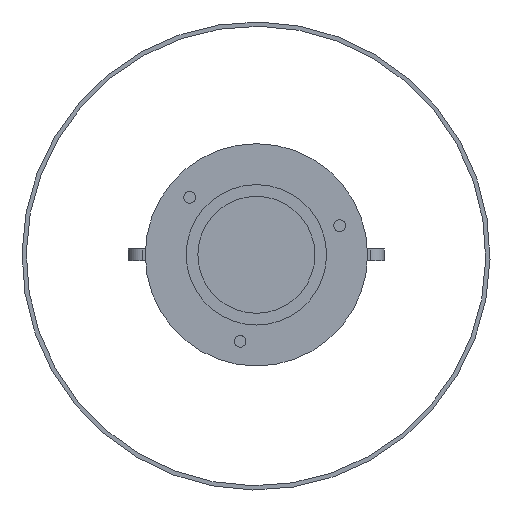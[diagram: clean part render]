
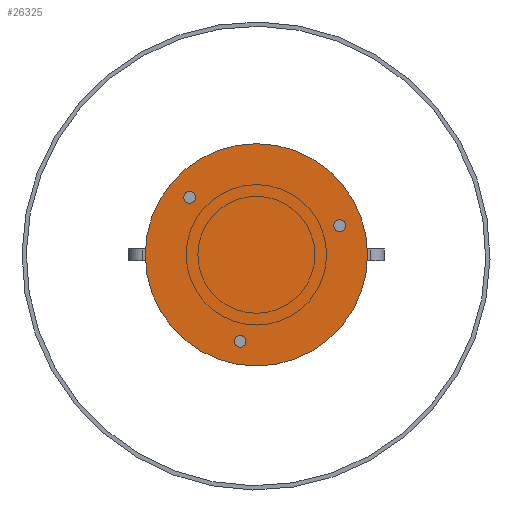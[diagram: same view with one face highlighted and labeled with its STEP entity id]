
A CAD part, front view. The second image highlights one B-rep face of the part: STEP entity #26325.
In plain terms, the highlighted planar face has unit normal (0, -1, 0).
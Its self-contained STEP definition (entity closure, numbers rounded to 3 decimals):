
#29 = EDGE_CURVE ( 'NONE', #8350, #9614, #4669, .T. ) ;
#1437 = FACE_BOUND ( 'NONE', #11546, .T. ) ;
#1641 = CARTESIAN_POINT ( 'NONE',  ( 71.05, -2., 19.917 ) ) ;
#1895 = AXIS2_PLACEMENT_3D ( 'NONE', #8122, #31578, #16978 ) ;
#2232 = EDGE_LOOP ( 'NONE', ( #6592, #17200 ) ) ;
#2808 = EDGE_LOOP ( 'NONE', ( #35069, #18681 ) ) ;
#3937 = DIRECTION ( 'NONE',  ( 0., -1., 0. ) ) ;
#4669 = CIRCLE ( 'NONE', #26183, 95. ) ;
#5173 = VERTEX_POINT ( 'NONE', #10348 ) ;
#5291 = DIRECTION ( 'NONE',  ( 0., -1., 0. ) ) ;
#5431 = AXIS2_PLACEMENT_3D ( 'NONE', #11265, #37794, #17388 ) ;
#6255 = EDGE_CURVE ( 'NONE', #23090, #5173, #18486, .T. ) ;
#6457 = DIRECTION ( 'NONE',  ( 0., -1., 0. ) ) ;
#6592 = ORIENTED_EDGE ( 'NONE', *, *, #29, .T. ) ;
#6825 = CARTESIAN_POINT ( 'NONE',  ( -57.104, -2., 49.072 ) ) ;
#6863 = EDGE_CURVE ( 'NONE', #11114, #34862, #16086, .T. ) ;
#7804 = DIRECTION ( 'NONE',  ( 0., 0., -1. ) ) ;
#8122 = CARTESIAN_POINT ( 'NONE',  ( -13.946, -2., -73.989 ) ) ;
#8350 = VERTEX_POINT ( 'NONE', #11701 ) ;
#8614 = DIRECTION ( 'NONE',  ( -0.866, 0., 0.5 ) ) ;
#9614 = VERTEX_POINT ( 'NONE', #36959 ) ;
#9635 = AXIS2_PLACEMENT_3D ( 'NONE', #26073, #37053, #10512 ) ;
#10348 = CARTESIAN_POINT ( 'NONE',  ( -13.946, -2., -68.989 ) ) ;
#10512 = DIRECTION ( 'NONE',  ( 0., 0., -1. ) ) ;
#11046 = EDGE_LOOP ( 'NONE', ( #27418, #24476 ) ) ;
#11114 = VERTEX_POINT ( 'NONE', #27675 ) ;
#11265 = CARTESIAN_POINT ( 'NONE',  ( -13.946, -2., -73.989 ) ) ;
#11546 = EDGE_LOOP ( 'NONE', ( #32200, #37576 ) ) ;
#11701 = CARTESIAN_POINT ( 'NONE',  ( 0., -2., 95. ) ) ;
#12248 = CARTESIAN_POINT ( 'NONE',  ( -57.104, -2., 54.072 ) ) ;
#13107 = CARTESIAN_POINT ( 'NONE',  ( 0., -2., 0. ) ) ;
#13188 = FACE_BOUND ( 'NONE', #11046, .T. ) ;
#16086 = CIRCLE ( 'NONE', #32057, 5. ) ;
#16108 = CIRCLE ( 'NONE', #25923, 5. ) ;
#16978 = DIRECTION ( 'NONE',  ( 0., 0., -1. ) ) ;
#17119 = AXIS2_PLACEMENT_3D ( 'NONE', #32806, #6457, #33172 ) ;
#17200 = ORIENTED_EDGE ( 'NONE', *, *, #21716, .T. ) ;
#17388 = DIRECTION ( 'NONE',  ( 0., 0., -1. ) ) ;
#18200 = CIRCLE ( 'NONE', #27989, 5. ) ;
#18407 = EDGE_CURVE ( 'NONE', #21610, #25313, #36207, .T. ) ;
#18486 = CIRCLE ( 'NONE', #1895, 5. ) ;
#18650 = EDGE_CURVE ( 'NONE', #5173, #23090, #25080, .T. ) ;
#18681 = ORIENTED_EDGE ( 'NONE', *, *, #6255, .F. ) ;
#19135 = FACE_OUTER_BOUND ( 'NONE', #2232, .T. ) ;
#20705 = DIRECTION ( 'NONE',  ( 0., -1., 0. ) ) ;
#21328 = AXIS2_PLACEMENT_3D ( 'NONE', #24907, #31053, #7804 ) ;
#21429 = CARTESIAN_POINT ( 'NONE',  ( -13.946, -2., -78.989 ) ) ;
#21610 = VERTEX_POINT ( 'NONE', #1641 ) ;
#21716 = EDGE_CURVE ( 'NONE', #9614, #8350, #26216, .T. ) ;
#21753 = DIRECTION ( 'NONE',  ( 0., 0., -1. ) ) ;
#23090 = VERTEX_POINT ( 'NONE', #21429 ) ;
#23937 = DIRECTION ( 'NONE',  ( -0.866, 0., 0.5 ) ) ;
#24476 = ORIENTED_EDGE ( 'NONE', *, *, #6863, .F. ) ;
#24907 = CARTESIAN_POINT ( 'NONE',  ( 0., -2., 0. ) ) ;
#25013 = EDGE_CURVE ( 'NONE', #25313, #21610, #18200, .T. ) ;
#25080 = CIRCLE ( 'NONE', #5431, 5. ) ;
#25313 = VERTEX_POINT ( 'NONE', #31541 ) ;
#25923 = AXIS2_PLACEMENT_3D ( 'NONE', #34964, #20705, #8614 ) ;
#26073 = CARTESIAN_POINT ( 'NONE',  ( 0., -2., 0. ) ) ;
#26183 = AXIS2_PLACEMENT_3D ( 'NONE', #13107, #33859, #21753 ) ;
#26216 = CIRCLE ( 'NONE', #9635, 95. ) ;
#26325 = ADVANCED_FACE ( 'NONE', ( #27789, #1437, #13188, #19135 ), #34141, .T. ) ;
#26556 = DIRECTION ( 'NONE',  ( 0.866, 0., 0.5 ) ) ;
#27405 = CARTESIAN_POINT ( 'NONE',  ( 71.05, -2., 24.917 ) ) ;
#27418 = ORIENTED_EDGE ( 'NONE', *, *, #30288, .F. ) ;
#27675 = CARTESIAN_POINT ( 'NONE',  ( -57.104, -2., 44.072 ) ) ;
#27789 = FACE_BOUND ( 'NONE', #2808, .T. ) ;
#27989 = AXIS2_PLACEMENT_3D ( 'NONE', #27405, #5291, #26556 ) ;
#30288 = EDGE_CURVE ( 'NONE', #34862, #11114, #16108, .T. ) ;
#31053 = DIRECTION ( 'NONE',  ( 0., -1., 0. ) ) ;
#31541 = CARTESIAN_POINT ( 'NONE',  ( 71.05, -2., 29.917 ) ) ;
#31578 = DIRECTION ( 'NONE',  ( 0., -1., 0. ) ) ;
#32057 = AXIS2_PLACEMENT_3D ( 'NONE', #6825, #3937, #23937 ) ;
#32200 = ORIENTED_EDGE ( 'NONE', *, *, #25013, .F. ) ;
#32806 = CARTESIAN_POINT ( 'NONE',  ( 71.05, -2., 24.917 ) ) ;
#33172 = DIRECTION ( 'NONE',  ( 0.866, 0., 0.5 ) ) ;
#33859 = DIRECTION ( 'NONE',  ( 0., -1., 0. ) ) ;
#34141 = PLANE ( 'NONE',  #21328 ) ;
#34862 = VERTEX_POINT ( 'NONE', #12248 ) ;
#34964 = CARTESIAN_POINT ( 'NONE',  ( -57.104, -2., 49.072 ) ) ;
#35069 = ORIENTED_EDGE ( 'NONE', *, *, #18650, .F. ) ;
#36207 = CIRCLE ( 'NONE', #17119, 5. ) ;
#36959 = CARTESIAN_POINT ( 'NONE',  ( 0., -2., -95. ) ) ;
#37053 = DIRECTION ( 'NONE',  ( 0., -1., 0. ) ) ;
#37576 = ORIENTED_EDGE ( 'NONE', *, *, #18407, .F. ) ;
#37794 = DIRECTION ( 'NONE',  ( 0., -1., 0. ) ) ;
